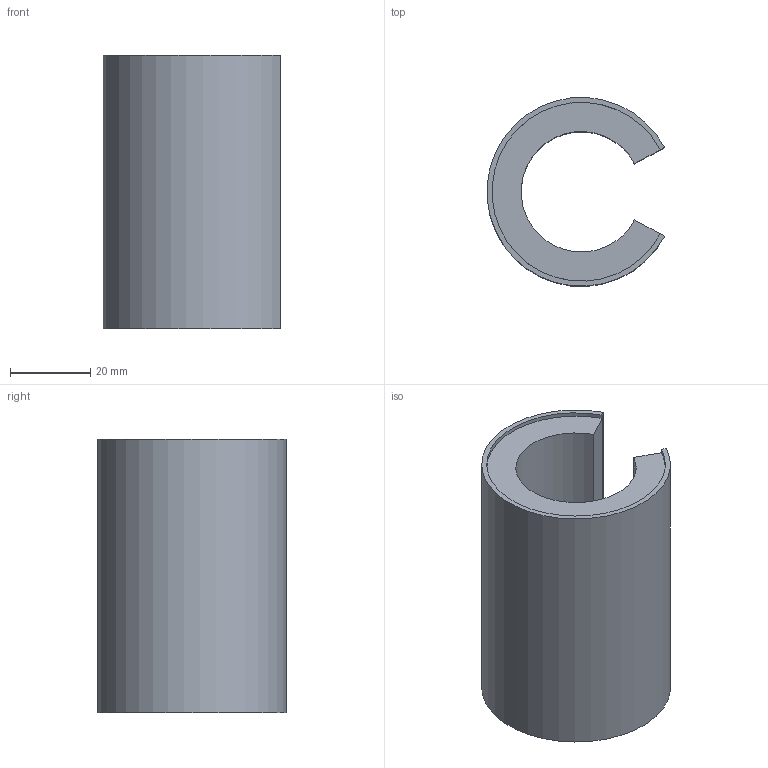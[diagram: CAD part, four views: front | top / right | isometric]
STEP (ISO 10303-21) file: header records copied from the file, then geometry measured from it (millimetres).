
FILE_DESCRIPTION(/* description */ (''),/* implementation_level */ '2;1');
FILE_NAME(/* name */ 'W:\WEBOVKY\Knecht\SBE (O)-UU\SBE (0)-30-UU\SME (O)-30-UU.stp',/* time_stamp */ '2021-03-08T14:45:31+01:00',/* author */ ('mkorenek'),/* organization */ (''),/* preprocessor_version */ 'ST-DEVELOPER v18.1',/* originating_system */ 'Autodesk Inventor 2021',/* authorisation */ '');
FILE_SCHEMA (('AUTOMOTIVE_DESIGN { 1 0 10303 214 3 1 1 }'));
Length unit declared in the file: millimetre
Products named in the file (3): LME-30-UU; vnějšek pouzdra; vnitřek pouzdra
Assembly tree (2 placements, depth 2):
  LME-30-UU
    vnějšek pouzdra
    vnitřek pouzdra
Bounding box: 44.15 x 46.93 x 68 mm (x, y, z)
Volume: 57574.9 mm3; surface area: 32409.3 mm2
Topology: 2 solids, 2 shells, 12 faces, 24 edges, 16 vertices
Faces by surface type: plane 8, cylinder 4
Entity records: 443 total; most frequent: DIRECTION 66, CARTESIAN_POINT 57, ORIENTED_EDGE 48, AXIS2_PLACEMENT_3D 25, EDGE_CURVE 24, LINE 16, VECTOR 16, VERTEX_POINT 16
